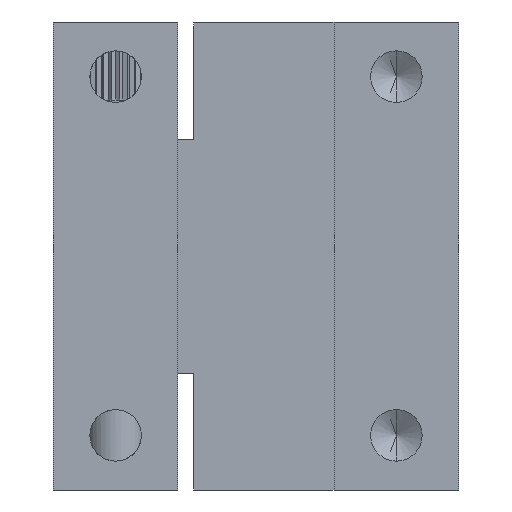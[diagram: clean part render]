
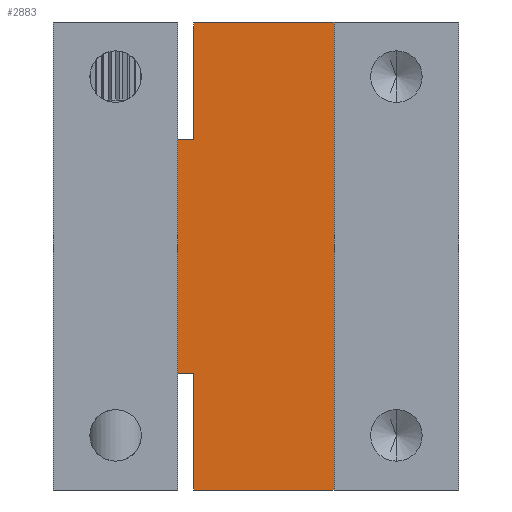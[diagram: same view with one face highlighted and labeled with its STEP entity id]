
A CAD part, front view. The second image highlights one B-rep face of the part: STEP entity #2883.
In plain terms, the highlighted planar face has unit normal (0, -1, 0) as drawn and (0, 1, 0) by its records, which use the part's own axes.
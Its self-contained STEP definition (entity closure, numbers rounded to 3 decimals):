
#31 = VERTEX_POINT ( 'NONE', #349 ) ;
#349 = CARTESIAN_POINT ( 'NONE',  ( -18., 4., -7.5 ) ) ;
#502 = ORIENTED_EDGE ( 'NONE', *, *, #3332, .T. ) ;
#504 = VERTEX_POINT ( 'NONE', #1592 ) ;
#520 = CARTESIAN_POINT ( 'NONE',  ( -13., 4., 7.5 ) ) ;
#541 = PLANE ( 'NONE',  #2797 ) ;
#592 = VERTEX_POINT ( 'NONE', #699 ) ;
#636 = VERTEX_POINT ( 'NONE', #520 ) ;
#692 = DIRECTION ( 'NONE',  ( -1., 0., 0. ) ) ;
#699 = CARTESIAN_POINT ( 'NONE',  ( -4., 4., 15. ) ) ;
#855 = CARTESIAN_POINT ( 'NONE',  ( 0., 4., 15. ) ) ;
#930 = DIRECTION ( 'NONE',  ( 0., 0., -1. ) ) ;
#1008 = VECTOR ( 'NONE', #2648, 1000. ) ;
#1015 = LINE ( 'NONE', #2533, #1008 ) ;
#1037 = VECTOR ( 'NONE', #930, 1000. ) ;
#1050 = LINE ( 'NONE', #3072, #1037 ) ;
#1067 = VECTOR ( 'NONE', #1479, 1000. ) ;
#1090 = LINE ( 'NONE', #855, #1067 ) ;
#1092 = VECTOR ( 'NONE', #1177, 1000. ) ;
#1102 = LINE ( 'NONE', #1356, #1092 ) ;
#1133 = VECTOR ( 'NONE', #692, 1000. ) ;
#1135 = LINE ( 'NONE', #1300, #1133 ) ;
#1157 = CARTESIAN_POINT ( 'NONE',  ( 0., 4., -7.5 ) ) ;
#1177 = DIRECTION ( 'NONE',  ( 0., 0., 1. ) ) ;
#1189 = VERTEX_POINT ( 'NONE', #2752 ) ;
#1213 = LINE ( 'NONE', #1876, #1232 ) ;
#1232 = VECTOR ( 'NONE', #1866, 1000. ) ;
#1249 = DIRECTION ( 'NONE',  ( -1., 0., 0. ) ) ;
#1300 = CARTESIAN_POINT ( 'NONE',  ( 0., 4., 7.5 ) ) ;
#1311 = FACE_OUTER_BOUND ( 'NONE', #1598, .T. ) ;
#1356 = CARTESIAN_POINT ( 'NONE',  ( -13., 4., 0. ) ) ;
#1382 = VECTOR ( 'NONE', #1249, 1000. ) ;
#1383 = LINE ( 'NONE', #1157, #1382 ) ;
#1391 = CARTESIAN_POINT ( 'NONE',  ( -4., 4., -15. ) ) ;
#1433 = VECTOR ( 'NONE', #4715, 1000. ) ;
#1457 = LINE ( 'NONE', #2066, #1433 ) ;
#1474 = DIRECTION ( 'NONE',  ( 0., 1., 0. ) ) ;
#1479 = DIRECTION ( 'NONE',  ( 1., 0., 0. ) ) ;
#1566 = DIRECTION ( 'NONE',  ( -1., 0., 0. ) ) ;
#1592 = CARTESIAN_POINT ( 'NONE',  ( -13., 4., -7.5 ) ) ;
#1598 = EDGE_LOOP ( 'NONE', ( #4756, #4739, #4892, #4736, #4732, #502, #4722, #4711 ) ) ;
#1662 = CARTESIAN_POINT ( 'NONE',  ( 0., 4., 15. ) ) ;
#1866 = DIRECTION ( 'NONE',  ( 0., 0., -1. ) ) ;
#1876 = CARTESIAN_POINT ( 'NONE',  ( -18., 4., 15. ) ) ;
#2066 = CARTESIAN_POINT ( 'NONE',  ( -13., 4., 0. ) ) ;
#2533 = CARTESIAN_POINT ( 'NONE',  ( 0., 4., -15. ) ) ;
#2605 = CARTESIAN_POINT ( 'NONE',  ( -18., 4., 7.5 ) ) ;
#2648 = DIRECTION ( 'NONE',  ( 1., 0., 0. ) ) ;
#2667 = EDGE_CURVE ( 'NONE', #3435, #504, #1457, .T. ) ;
#2740 = EDGE_CURVE ( 'NONE', #504, #31, #1383, .T. ) ;
#2742 = CARTESIAN_POINT ( 'NONE',  ( -13., 4., -15. ) ) ;
#2752 = CARTESIAN_POINT ( 'NONE',  ( -13., 4., 15. ) ) ;
#2797 = AXIS2_PLACEMENT_3D ( 'NONE', #1662, #1474, #1566 ) ;
#2883 = ADVANCED_FACE ( 'NONE', ( #1311 ), #541, .T. ) ;
#3072 = CARTESIAN_POINT ( 'NONE',  ( -4., 4., 15. ) ) ;
#3144 = EDGE_CURVE ( 'NONE', #4461, #31, #1213, .T. ) ;
#3217 = VERTEX_POINT ( 'NONE', #1391 ) ;
#3220 = EDGE_CURVE ( 'NONE', #636, #4461, #1135, .T. ) ;
#3257 = EDGE_CURVE ( 'NONE', #636, #1189, #1102, .T. ) ;
#3332 = EDGE_CURVE ( 'NONE', #1189, #592, #1090, .T. ) ;
#3388 = EDGE_CURVE ( 'NONE', #592, #3217, #1050, .T. ) ;
#3435 = VERTEX_POINT ( 'NONE', #2742 ) ;
#3450 = EDGE_CURVE ( 'NONE', #3435, #3217, #1015, .T. ) ;
#4461 = VERTEX_POINT ( 'NONE', #2605 ) ;
#4711 = ORIENTED_EDGE ( 'NONE', *, *, #3450, .F. ) ;
#4715 = DIRECTION ( 'NONE',  ( 0., 0., 1. ) ) ;
#4722 = ORIENTED_EDGE ( 'NONE', *, *, #3388, .T. ) ;
#4732 = ORIENTED_EDGE ( 'NONE', *, *, #3257, .T. ) ;
#4736 = ORIENTED_EDGE ( 'NONE', *, *, #3220, .F. ) ;
#4739 = ORIENTED_EDGE ( 'NONE', *, *, #2740, .T. ) ;
#4756 = ORIENTED_EDGE ( 'NONE', *, *, #2667, .T. ) ;
#4892 = ORIENTED_EDGE ( 'NONE', *, *, #3144, .F. ) ;
